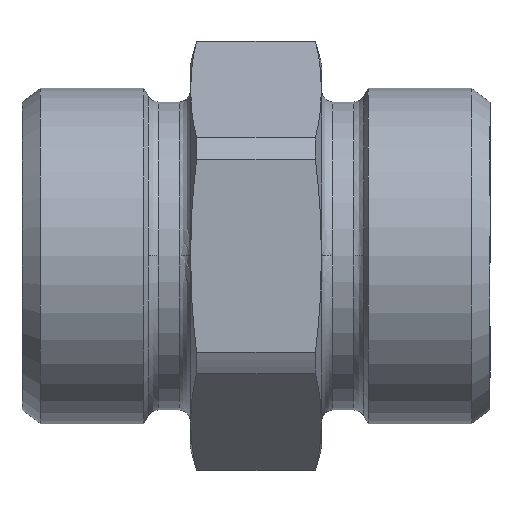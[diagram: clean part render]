
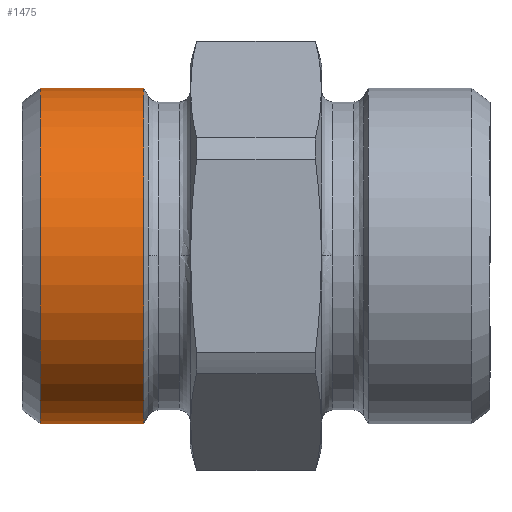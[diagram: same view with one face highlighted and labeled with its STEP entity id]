
A CAD part, top view. The second image highlights one B-rep face of the part: STEP entity #1475.
In plain terms, the highlighted cylindrical face has radius 17.91 mm (diameter 35.82 mm), a partial arc.
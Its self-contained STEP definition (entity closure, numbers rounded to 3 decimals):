
#859=CARTESIAN_POINT('',(0.,-17.91,23.063));
#860=VERTEX_POINT('',#859);
#861=CARTESIAN_POINT('',(0.,-17.91,11.993));
#862=VERTEX_POINT('',#861);
#863=CARTESIAN_POINT('',(0.,-17.91,23.063));
#864=DIRECTION('',(0.0,0.0,-1.0));
#865=VECTOR('',#864,11.07);
#866=LINE('',#863,#865);
#867=EDGE_CURVE('',#860,#862,#866,.T.);
#869=CARTESIAN_POINT('',(0.,17.91,23.063));
#870=VERTEX_POINT('',#869);
#878=CARTESIAN_POINT('',(0.,17.91,11.993));
#879=VERTEX_POINT('',#878);
#880=CARTESIAN_POINT('',(0.,17.91,11.993));
#881=DIRECTION('',(0.0,0.0,1.0));
#882=VECTOR('',#881,11.07);
#883=LINE('',#880,#882);
#884=EDGE_CURVE('',#879,#870,#883,.T.);
#1351=CARTESIAN_POINT('',(0.,0.,11.993));
#1352=DIRECTION('',(0.0,0.0,-1.0));
#1353=DIRECTION('',(0.0,-1.0,0.0));
#1354=AXIS2_PLACEMENT_3D('',#1351,#1352,#1353);
#1355=CIRCLE('',#1354,17.91);
#1356=EDGE_CURVE('',#879,#862,#1355,.T.);
#1452=CARTESIAN_POINT('',(0.,0.,23.063));
#1453=DIRECTION('',(0.0,0.0,-1.0));
#1454=DIRECTION('',(0.0,-1.0,0.0));
#1455=AXIS2_PLACEMENT_3D('',#1452,#1453,#1454);
#1456=CIRCLE('',#1455,17.91);
#1457=EDGE_CURVE('',#870,#860,#1456,.T.);
#1464=CARTESIAN_POINT('',(0.,0.,17.528));
#1465=DIRECTION('',(0.,0.,-1.0));
#1466=DIRECTION('',(0.0,-1.0,0.0));
#1467=AXIS2_PLACEMENT_3D('',#1464,#1465,#1466);
#1468=CYLINDRICAL_SURFACE('',#1467,17.91);
#1469=ORIENTED_EDGE('',*,*,#867,.T.);
#1470=ORIENTED_EDGE('',*,*,#1356,.F.);
#1471=ORIENTED_EDGE('',*,*,#884,.T.);
#1472=ORIENTED_EDGE('',*,*,#1457,.T.);
#1473=EDGE_LOOP('',(#1469,#1470,#1471,#1472));
#1474=FACE_OUTER_BOUND('',#1473,.T.);
#1475=ADVANCED_FACE('',(#1474),#1468,.T.);
